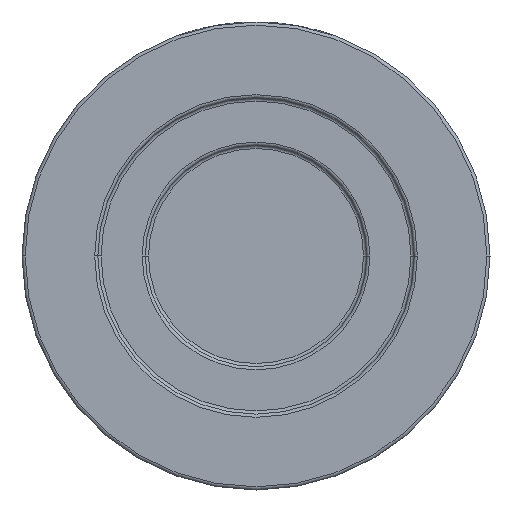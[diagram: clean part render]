
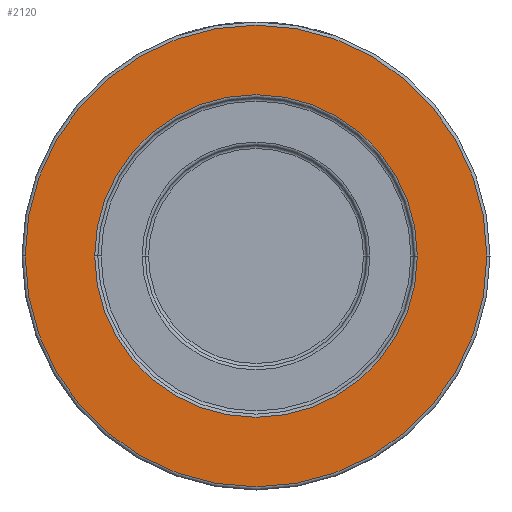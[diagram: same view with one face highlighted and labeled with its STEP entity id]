
A CAD part, front view. The second image highlights one B-rep face of the part: STEP entity #2120.
In plain terms, the highlighted planar face has unit normal (0, -1, 0).
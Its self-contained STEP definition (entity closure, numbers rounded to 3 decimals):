
#24 = CARTESIAN_POINT ( 'NONE',  ( 73., -50., 0. ) ) ;
#301 = DIRECTION ( 'NONE',  ( 0., 1., 0. ) ) ;
#428 = CIRCLE ( 'NONE', #1594, 51. ) ;
#774 = CARTESIAN_POINT ( 'NONE',  ( 0., -50., 0. ) ) ;
#997 = EDGE_LOOP ( 'NONE', ( #3512, #1879 ) ) ;
#1594 = AXIS2_PLACEMENT_3D ( 'NONE', #3995, #301, #4628 ) ;
#1700 = DIRECTION ( 'NONE',  ( 1., 0., 0. ) ) ;
#1712 = VERTEX_POINT ( 'NONE', #3358 ) ;
#1879 = ORIENTED_EDGE ( 'NONE', *, *, #3599, .T. ) ;
#1886 = AXIS2_PLACEMENT_3D ( 'NONE', #2012, #3488, #3901 ) ;
#2012 = CARTESIAN_POINT ( 'NONE',  ( 74., -50., 0. ) ) ;
#2120 = ADVANCED_FACE ( 'NONE', ( #2419, #4654 ), #3508, .T. ) ;
#2125 = CARTESIAN_POINT ( 'NONE',  ( 51., -50., 0. ) ) ;
#2141 = CIRCLE ( 'NONE', #4693, 51. ) ;
#2229 = VERTEX_POINT ( 'NONE', #24 ) ;
#2283 = CIRCLE ( 'NONE', #2760, 73. ) ;
#2419 = FACE_BOUND ( 'NONE', #997, .T. ) ;
#2479 = CARTESIAN_POINT ( 'NONE',  ( 0., -50., 0. ) ) ;
#2500 = DIRECTION ( 'NONE',  ( 0., -1., 0. ) ) ;
#2594 = AXIS2_PLACEMENT_3D ( 'NONE', #774, #3714, #3737 ) ;
#2760 = AXIS2_PLACEMENT_3D ( 'NONE', #2479, #2500, #3957 ) ;
#2798 = CARTESIAN_POINT ( 'NONE',  ( 0., -50., 0. ) ) ;
#2865 = VERTEX_POINT ( 'NONE', #2125 ) ;
#2873 = EDGE_CURVE ( 'NONE', #4235, #2229, #3445, .T. ) ;
#3358 = CARTESIAN_POINT ( 'NONE',  ( -51., -50., 0. ) ) ;
#3445 = CIRCLE ( 'NONE', #2594, 73. ) ;
#3453 = EDGE_CURVE ( 'NONE', #2229, #4235, #2283, .T. ) ;
#3488 = DIRECTION ( 'NONE',  ( 0., -1., 0. ) ) ;
#3508 = PLANE ( 'NONE',  #1886 ) ;
#3512 = ORIENTED_EDGE ( 'NONE', *, *, #4484, .T. ) ;
#3599 = EDGE_CURVE ( 'NONE', #1712, #2865, #2141, .T. ) ;
#3704 = CARTESIAN_POINT ( 'NONE',  ( -73., -50., 0. ) ) ;
#3714 = DIRECTION ( 'NONE',  ( 0., -1., 0. ) ) ;
#3737 = DIRECTION ( 'NONE',  ( 1., 0., 0. ) ) ;
#3901 = DIRECTION ( 'NONE',  ( 1., 0., 0. ) ) ;
#3911 = DIRECTION ( 'NONE',  ( 0., 1., 0. ) ) ;
#3957 = DIRECTION ( 'NONE',  ( 1., 0., 0. ) ) ;
#3995 = CARTESIAN_POINT ( 'NONE',  ( 0., -50., 0. ) ) ;
#4202 = ORIENTED_EDGE ( 'NONE', *, *, #3453, .T. ) ;
#4235 = VERTEX_POINT ( 'NONE', #3704 ) ;
#4348 = ORIENTED_EDGE ( 'NONE', *, *, #2873, .T. ) ;
#4418 = EDGE_LOOP ( 'NONE', ( #4202, #4348 ) ) ;
#4484 = EDGE_CURVE ( 'NONE', #2865, #1712, #428, .T. ) ;
#4628 = DIRECTION ( 'NONE',  ( 1., 0., 0. ) ) ;
#4654 = FACE_OUTER_BOUND ( 'NONE', #4418, .T. ) ;
#4693 = AXIS2_PLACEMENT_3D ( 'NONE', #2798, #3911, #1700 ) ;
